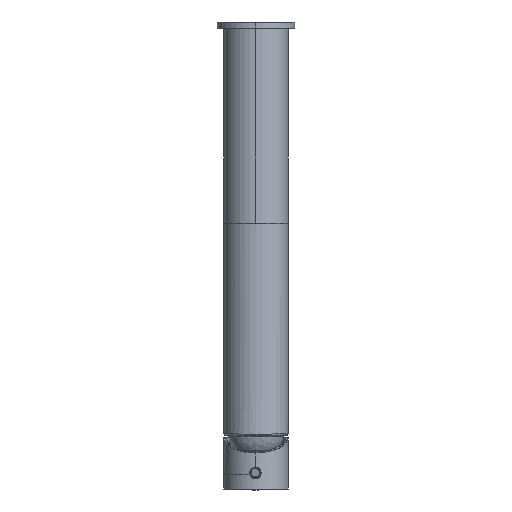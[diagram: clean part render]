
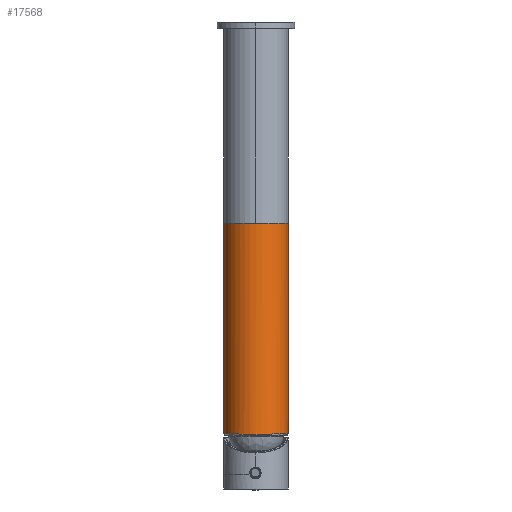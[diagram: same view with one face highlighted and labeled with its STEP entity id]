
A CAD part, front view. The second image highlights one B-rep face of the part: STEP entity #17568.
In plain terms, the highlighted cylindrical face has radius 19 mm (diameter 38 mm), a partial arc.
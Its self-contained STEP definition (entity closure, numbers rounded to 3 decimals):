
#1632=CARTESIAN_POINT('',(0.,-19.,-239.861));
#4205=CARTESIAN_POINT('',(-19.,0.,
-239.536));
#4206=CARTESIAN_POINT('',(-19.,-0.398,
-239.536));
#4207=CARTESIAN_POINT('',(-18.975,-1.194,
-239.537));
#4208=CARTESIAN_POINT('',(-18.863,-2.382,
-239.541));
#4209=CARTESIAN_POINT('',(-18.676,-3.562,
-239.547));
#4210=CARTESIAN_POINT('',(-18.415,-4.727,
-239.556));
#4211=CARTESIAN_POINT('',(-18.082,-5.874,
-239.567));
#4212=CARTESIAN_POINT('',(-17.678,-6.998,
-239.58));
#4213=CARTESIAN_POINT('',(-17.204,-8.094,
-239.595));
#4214=CARTESIAN_POINT('',(-16.661,-9.158,
-239.612));
#4215=CARTESIAN_POINT('',(-16.053,-10.187,
-239.629));
#4216=CARTESIAN_POINT('',(-15.382,-11.175,
-239.648));
#4217=CARTESIAN_POINT('',(-14.65,-12.119,
-239.668));
#4218=CARTESIAN_POINT('',(-13.86,-13.015,
-239.689));
#4219=CARTESIAN_POINT('',(-13.015,-13.86,
-239.709));
#4220=CARTESIAN_POINT('',(-12.119,-14.65,
-239.729));
#4221=CARTESIAN_POINT('',(-11.175,-15.382,
-239.749));
#4222=CARTESIAN_POINT('',(-10.187,-16.053,
-239.768));
#4223=CARTESIAN_POINT('',(-9.158,-16.661,
-239.786));
#4224=CARTESIAN_POINT('',(-8.094,-17.204,
-239.803));
#4225=CARTESIAN_POINT('',(-6.998,-17.678,
-239.817));
#4226=CARTESIAN_POINT('',(-5.874,-18.082,
-239.83));
#4227=CARTESIAN_POINT('',(-4.727,-18.415,-239.841));
#4228=CARTESIAN_POINT('',(-3.562,-18.676,
-239.85));
#4229=CARTESIAN_POINT('',(-2.382,-18.863,
-239.856));
#4230=CARTESIAN_POINT('',(-1.193,-18.975,
-239.86));
#4231=CARTESIAN_POINT('',(-0.398,-19.,
-239.861));
#4232=CARTESIAN_POINT('',(0.,-19.,-239.861));
#4234=DIRECTION('',(0.,0.,-1.));
#4235=VECTOR('',#4234,124.536);
#4236=CARTESIAN_POINT('',(-19.,0.,-115.));
#4237=LINE('',#4236,#4235);
#4238=DIRECTION('',(0.,0.,-1.));
#4239=VECTOR('',#4238,124.536);
#4240=CARTESIAN_POINT('',(19.,0.,-115.));
#4241=LINE('',#4240,#4239);
#4242=CARTESIAN_POINT('',(0.,-19.,-239.861));
#4243=CARTESIAN_POINT('',(0.398,-19.,
-239.861));
#4244=CARTESIAN_POINT('',(1.193,-18.975,
-239.86));
#4245=CARTESIAN_POINT('',(2.382,-18.863,
-239.856));
#4246=CARTESIAN_POINT('',(3.562,-18.676,
-239.85));
#4247=CARTESIAN_POINT('',(4.727,-18.415,
-239.841));
#4248=CARTESIAN_POINT('',(5.874,-18.082,
-239.83));
#4249=CARTESIAN_POINT('',(6.998,-17.678,
-239.817));
#4250=CARTESIAN_POINT('',(8.094,-17.204,
-239.803));
#4251=CARTESIAN_POINT('',(9.158,-16.661,
-239.786));
#4252=CARTESIAN_POINT('',(10.187,-16.053,
-239.768));
#4253=CARTESIAN_POINT('',(11.175,-15.382,
-239.749));
#4254=CARTESIAN_POINT('',(12.119,-14.65,
-239.729));
#4255=CARTESIAN_POINT('',(13.015,-13.86,
-239.709));
#4256=CARTESIAN_POINT('',(13.86,-13.015,
-239.689));
#4257=CARTESIAN_POINT('',(14.65,-12.119,
-239.668));
#4258=CARTESIAN_POINT('',(15.382,-11.175,
-239.648));
#4259=CARTESIAN_POINT('',(16.053,-10.187,
-239.629));
#4260=CARTESIAN_POINT('',(16.661,-9.158,
-239.612));
#4261=CARTESIAN_POINT('',(17.204,-8.094,
-239.595));
#4262=CARTESIAN_POINT('',(17.678,-6.998,
-239.58));
#4263=CARTESIAN_POINT('',(18.082,-5.874,
-239.567));
#4264=CARTESIAN_POINT('',(18.415,-4.727,
-239.556));
#4265=CARTESIAN_POINT('',(18.676,-3.562,
-239.547));
#4266=CARTESIAN_POINT('',(18.863,-2.382,
-239.541));
#4267=CARTESIAN_POINT('',(18.975,-1.193,
-239.537));
#4268=CARTESIAN_POINT('',(19.,-0.398,
-239.536));
#4269=CARTESIAN_POINT('',(19.,0.,
-239.536));
#4286=CARTESIAN_POINT('',(0.,0.,-115.));
#4287=DIRECTION('',(0.,0.,1.));
#4288=DIRECTION('',(-1.,0.,0.));
#4289=AXIS2_PLACEMENT_3D('',#4286,#4287,#4288);
#6747=VERTEX_POINT('',#1632);
#6977=CARTESIAN_POINT('',(19.,0.,-115.));
#6978=CARTESIAN_POINT('',(19.,0.,
-239.536));
#6979=VERTEX_POINT('',#6977);
#6980=VERTEX_POINT('',#6978);
#6981=CARTESIAN_POINT('',(-19.,0.,-115.));
#6982=CARTESIAN_POINT('',(-19.,0.,
-239.536));
#6983=VERTEX_POINT('',#6981);
#6984=VERTEX_POINT('',#6982);
#17555=CARTESIAN_POINT('',(0.,0.,12.225));
#17556=DIRECTION('',(0.,0.,-1.));
#17557=DIRECTION('',(-1.,0.,0.));
#17558=AXIS2_PLACEMENT_3D('',#17555,#17556,#17557);
#17559=CYLINDRICAL_SURFACE('',#17558,19.);
#17560=ORIENTED_EDGE('',*,*,#10834,.F.);
#17561=ORIENTED_EDGE('',*,*,#10859,.F.);
#17563=ORIENTED_EDGE('',*,*,#17562,.T.);
#17564=ORIENTED_EDGE('',*,*,#10855,.T.);
#17565=ORIENTED_EDGE('',*,*,#10478,.F.);
#17566=EDGE_LOOP('',(#17560,#17561,#17563,#17564,#17565));
#17567=FACE_OUTER_BOUND('',#17566,.F.);
#17568=ADVANCED_FACE('',(#17567),#17559,.T.);
#4233=B_SPLINE_CURVE_WITH_KNOTS('',3,(#4205,#4206,#4207,#4208,#4209,#4210,#4211,
#4212,#4213,#4214,#4215,#4216,#4217,#4218,#4219,#4220,#4221,#4222,#4223,#4224,
#4225,#4226,#4227,#4228,#4229,#4230,#4231,#4232),.UNSPECIFIED.,.F.,.F.,(4,1,1,1,
1,1,1,1,1,1,1,1,1,1,1,1,1,1,1,1,1,1,1,1,1,4),(0.,0.04,0.08,0.12,0.16,
0.2,0.24,0.28,0.32,0.36,0.4,0.44,0.48,0.52,0.56,0.6,
0.64,0.68,0.72,0.76,0.8,0.84,0.88,0.92,0.96,1.),
.UNSPECIFIED.);
#4270=B_SPLINE_CURVE_WITH_KNOTS('',3,(#4242,#4243,#4244,#4245,#4246,#4247,#4248,
#4249,#4250,#4251,#4252,#4253,#4254,#4255,#4256,#4257,#4258,#4259,#4260,#4261,
#4262,#4263,#4264,#4265,#4266,#4267,#4268,#4269),.UNSPECIFIED.,.F.,.F.,(4,1,1,1,
1,1,1,1,1,1,1,1,1,1,1,1,1,1,1,1,1,1,1,1,1,4),(0.,0.04,0.08,0.12,0.16,
0.2,0.24,0.28,0.32,0.36,0.4,0.44,0.48,0.52,0.56,0.6,
0.64,0.68,0.72,0.76,0.8,0.84,0.88,0.92,0.96,1.),
.UNSPECIFIED.);
#4290=CIRCLE('',#4289,19.);
#10478=EDGE_CURVE('',#6747,#6980,#4270,.T.);
#10834=EDGE_CURVE('',#6984,#6747,#4233,.T.);
#10855=EDGE_CURVE('',#6979,#6980,#4241,.T.);
#10859=EDGE_CURVE('',#6983,#6984,#4237,.T.);
#17562=EDGE_CURVE('',#6983,#6979,#4290,.T.);
